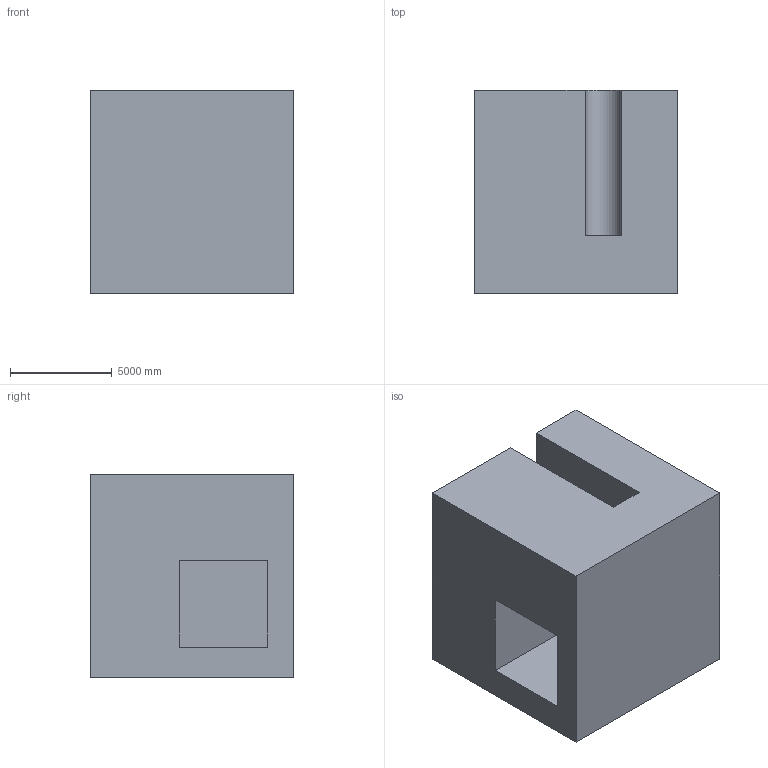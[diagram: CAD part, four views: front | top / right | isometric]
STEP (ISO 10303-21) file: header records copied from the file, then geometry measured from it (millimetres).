
FILE_DESCRIPTION (( 'STEP AP203' ), '1' );
FILE_NAME ('1111.STEP', '2022-08-18T12:48:17', ( 'user' ), ( '' ), 'SwSTEP 2.0', 'SolidWorks 2021', '' );
FILE_SCHEMA (( 'CONFIG_CONTROL_DESIGN' ));
Length unit declared in the file: centimetre
Products named in the file (1): 1111
Bounding box: 10000 x 10000 x 10000 mm (x, y, z)
Volume: 806238149869.1 mm3; surface area: 785047187.5 mm2
Topology: 1 solids, 1 shells, 15 faces, 36 edges, 24 vertices
Faces by surface type: plane 14, cylinder 1
Entity records: 509 total; most frequent: CARTESIAN_POINT 76, ORIENTED_EDGE 72, DIRECTION 70, EDGE_CURVE 36, VECTOR 34, LINE 34, VERTEX_POINT 24, AXIS2_PLACEMENT_3D 18
